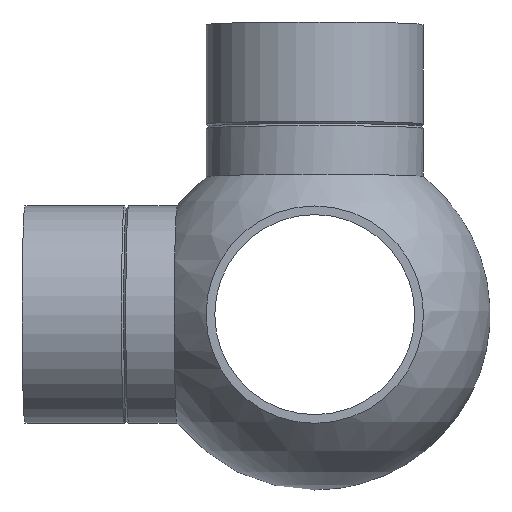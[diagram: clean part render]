
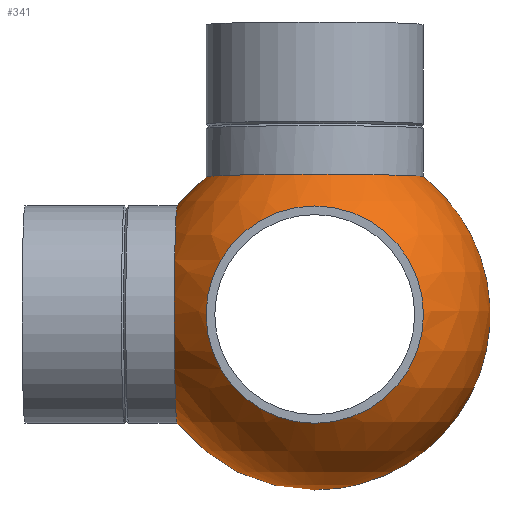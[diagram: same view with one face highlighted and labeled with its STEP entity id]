
A CAD part, front view. The second image highlights one B-rep face of the part: STEP entity #341.
In plain terms, the highlighted spherical face has radius 60.5 mm.
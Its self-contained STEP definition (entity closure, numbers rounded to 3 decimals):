
#13=SPHERICAL_SURFACE($,#398,60.5);
#59=FACE_BOUND($,#137,.T.);
#60=FACE_BOUND($,#138,.T.);
#61=FACE_BOUND($,#139,.T.);
#85=FACE_OUTER_BOUND($,#136,.T.);
#136=EDGE_LOOP($,(#276));
#137=EDGE_LOOP($,(#277));
#138=EDGE_LOOP($,(#278));
#139=EDGE_LOOP($,(#279));
#147=CIRCLE($,#355,37.5);
#152=CIRCLE($,#365,37.5);
#164=CIRCLE($,#387,37.5);
#169=CIRCLE($,#397,37.5);
#175=VERTEX_POINT($,#525);
#180=VERTEX_POINT($,#540);
#192=VERTEX_POINT($,#574);
#197=VERTEX_POINT($,#589);
#203=EDGE_CURVE($,#175,#175,#147,.T.);
#208=EDGE_CURVE($,#180,#180,#152,.T.);
#220=EDGE_CURVE($,#192,#192,#164,.T.);
#225=EDGE_CURVE($,#197,#197,#169,.T.);
#276=ORIENTED_EDGE($,*,*,#203,.T.);
#277=ORIENTED_EDGE($,*,*,#208,.T.);
#278=ORIENTED_EDGE($,*,*,#220,.T.);
#279=ORIENTED_EDGE($,*,*,#225,.T.);
#341=ADVANCED_FACE($,(#85,#59,#60,#61),#13,.T.);
#355=AXIS2_PLACEMENT_3D($,#526,#420,#421);
#365=AXIS2_PLACEMENT_3D($,#541,#440,#441);
#387=AXIS2_PLACEMENT_3D($,#575,#484,#485);
#397=AXIS2_PLACEMENT_3D($,#590,#504,#505);
#398=AXIS2_PLACEMENT_3D($,#591,#506,#507);
#420=DIRECTION('center_axis',(0.,-0.026,
-1.));
#421=DIRECTION('ref_axis',(-1.,0.,0.));
#440=DIRECTION('center_axis',(1.,-0.026,0.));
#441=DIRECTION('ref_axis',(0.,0.,-1.));
#484=DIRECTION('center_axis',(0.,1.,0.));
#485=DIRECTION('ref_axis',(1.,0.,0.));
#504=DIRECTION('center_axis',(0.,-1.,0.));
#505=DIRECTION('ref_axis',(1.,0.,0.));
#506=DIRECTION('center_axis',(0.,0.,1.));
#507=DIRECTION('ref_axis',(1.,0.,0.));
#525=CARTESIAN_POINT('',(37.5,1.243,47.46));
#526=CARTESIAN_POINT('Origin',(0.,1.243,
47.46));
#540=CARTESIAN_POINT('',(-47.46,1.243,37.5));
#541=CARTESIAN_POINT('Origin',(-47.46,1.243,0.));
#574=CARTESIAN_POINT('',(-37.5,-47.476,0.));
#575=CARTESIAN_POINT('Origin',(0.,-47.476,0.));
#589=CARTESIAN_POINT('',(-37.5,47.476,0.));
#590=CARTESIAN_POINT('Origin',(0.,47.476,0.));
#591=CARTESIAN_POINT('Origin',(0.,0.,0.));
